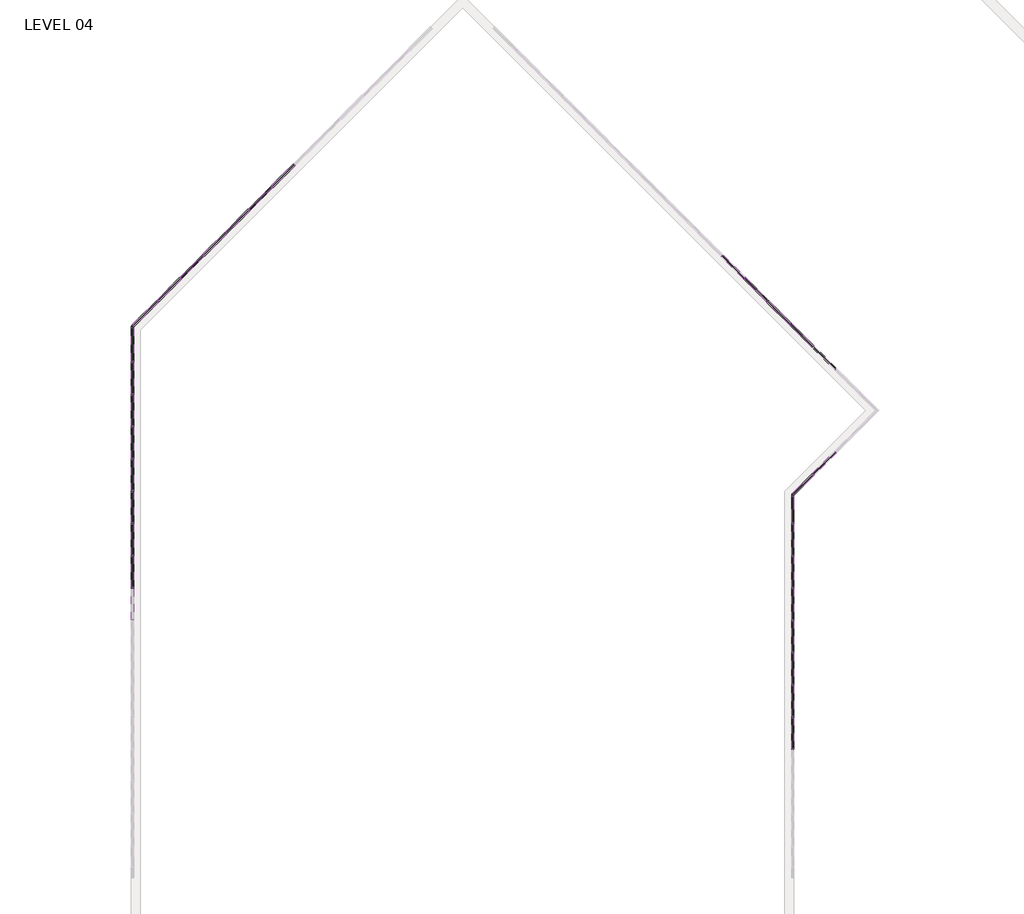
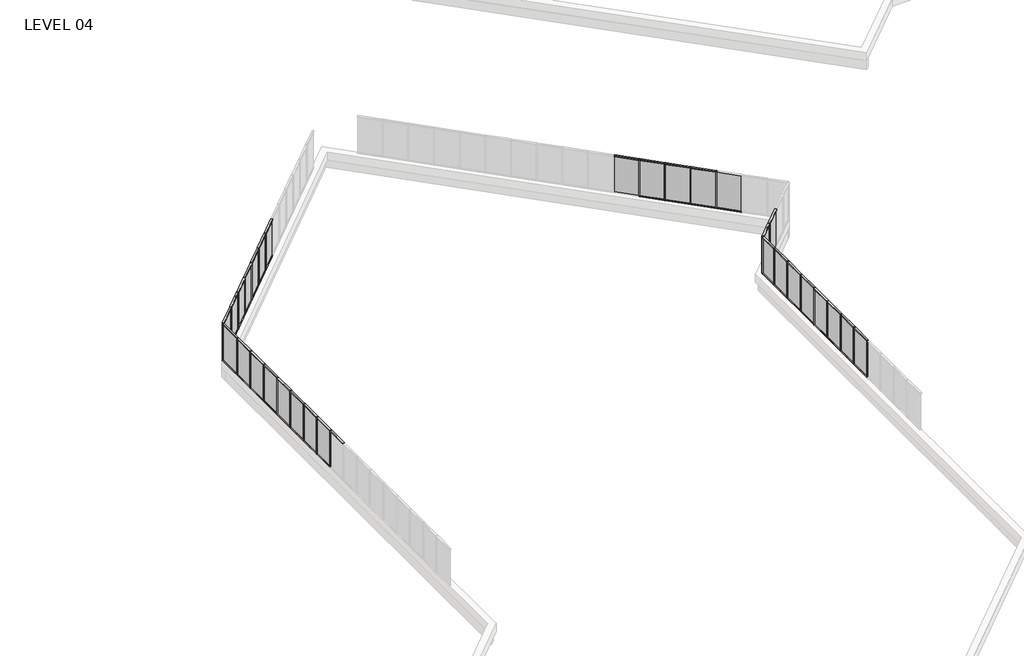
# One storey, part 5 of 17: 89 members, 30 plates.
"""IFC4 building model written with IfcOpenShell, lengths in millimetres."""

from ifc_helpers import new_model, si_unit, origin, place, context, project, spatial, transform, mapped, element, save
from components import member_5247f267, member_e44af9ab, member_800970d4, member_45eb7f2e, member_1bd862b2, member_c975838b, plate_67294edd, plate_bbcbcabf, plate_9c66726c, plate_3fb62afd, plate_129ab9d0

model = new_model("IFC4")

# Units and contexts
model_context = context("Model", 3, world=origin())
ifc_project = project(units=[si_unit("LENGTHUNIT", "METRE", prefix="MILLI")], contexts=[model_context])

# Site, building, storey
site = spatial("IfcSite", under=ifc_project)
building = spatial("IfcBuilding", under=site)
storey = spatial("IfcBuildingStorey", under=building, Name="LEVEL 04", Elevation=12052.3)

# Members
placement = place(None, origin())
member_shape = member_5247f267(model_context)
element("IfcMember", 1, ObjectType="Rectangular Mullion : 2\" x 4.5\" rectangular", at=placement, inside=storey, context=model_context, shape_type="MappedRepresentation", body=[
    mapped(member_shape, transform((-32784.0347164, 64350.5675885, 14643.1), x_axis=(0.0, 0.0, 1.0), y_axis=(1.0, 0.0, 0.0), z_axis=(0.0, 1.0, 0.0))),
])
element("IfcMember", 2, ObjectType="Rectangular Mullion : 2\" x 4.5\" rectangular", at=placement, inside=storey, context=model_context, shape_type="MappedRepresentation", body=[
    mapped(member_shape, transform((-32784.0347164, 67398.5675885, 14643.1), x_axis=(0.0, 0.0, 1.0), y_axis=(1.0, 0.0, 0.0), z_axis=(0.0, 1.0, 0.0))),
])
element("IfcMember", 3, ObjectType="Rectangular Mullion : 2\" x 4.5\" rectangular", at=placement, inside=storey, context=model_context, shape_type="MappedRepresentation", body=[
    mapped(member_shape, transform((-32784.0347164, 71970.5675885, 14643.1), x_axis=(0.0, 0.0, 1.0), y_axis=(1.0, 0.0, 0.0), z_axis=(0.0, 1.0, 0.0))),
])
element("IfcMember", 4, ObjectType="Rectangular Mullion : 2\" x 4.5\" rectangular", at=placement, inside=storey, context=model_context, shape_type="MappedRepresentation", body=[
    mapped(member_shape, transform((-32784.0347164, 73494.5675885, 14643.1), x_axis=(0.0, 0.0, 1.0), y_axis=(1.0, 0.0, 0.0), z_axis=(0.0, 1.0, 0.0))),
])
element("IfcMember", 5, ObjectType="Rectangular Mullion : 2\" x 4.5\" rectangular", at=placement, inside=storey, context=model_context, shape_type="MappedRepresentation", body=[
    mapped(member_shape, transform((-32784.0347164, 65874.5675885, 14643.1), x_axis=(0.0, 0.0, 1.0), y_axis=(1.0, 0.0, 0.0), z_axis=(0.0, 1.0, 0.0))),
])
element("IfcMember", 6, ObjectType="Rectangular Mullion : 2\" x 4.5\" rectangular", at=placement, inside=storey, context=model_context, shape_type="MappedRepresentation", body=[
    mapped(member_shape, transform((-32784.0347164, 68922.5675885, 14643.1), x_axis=(0.0, 0.0, 1.0), y_axis=(1.0, 0.0, 0.0), z_axis=(0.0, 1.0, 0.0))),
])
element("IfcMember", 7, ObjectType="Rectangular Mullion : 2\" x 4.5\" rectangular", at=placement, inside=storey, context=model_context, shape_type="MappedRepresentation", body=[
    mapped(member_shape, transform((-32784.0347164, 70446.5675885, 14643.1), x_axis=(0.0, 0.0, 1.0), y_axis=(1.0, 0.0, 0.0), z_axis=(0.0, 1.0, 0.0))),
])
element("IfcMember", 8, ObjectType="Rectangular Mullion : 2\" x 4.5\" rectangular", at=placement, inside=storey, context=model_context, shape_type="MappedRepresentation", body=[
    mapped(member_shape, transform((-32784.0347164, 75018.5675885, 14643.1), x_axis=(0.0, 0.0, 1.0), y_axis=(1.0, 0.0, 0.0), z_axis=(0.0, 1.0, 0.0))),
])
element("IfcMember", 9, ObjectType="Rectangular Mullion : 2\" x 4.5\" rectangular", at=placement, inside=storey, context=model_context, shape_type="MappedRepresentation", body=[
    mapped(member_shape, transform((-30529.7405, 78987.9679405, 14643.1), x_axis=(0.0, 0.0, 1.0), y_axis=(0.7071067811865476, -0.7071067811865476, 0.0), z_axis=(0.7071067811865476, 0.7071067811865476, 0.0))),
])
element("IfcMember", 10, ObjectType="Rectangular Mullion : 2\" x 4.5\" rectangular", at=placement, inside=storey, context=model_context, shape_type="MappedRepresentation", body=[
    mapped(member_shape, transform((-29452.1097655, 80065.598675, 14643.1), x_axis=(0.0, 0.0, 1.0), y_axis=(0.7071067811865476, -0.7071067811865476, 0.0), z_axis=(0.7071067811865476, 0.7071067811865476, 0.0))),
])
element("IfcMember", 11, ObjectType="Rectangular Mullion : 2\" x 4.5\" rectangular", at=placement, inside=storey, context=model_context, shape_type="MappedRepresentation", body=[
    mapped(member_shape, transform((-28374.479031, 81143.2294096, 14643.1), x_axis=(0.0, 0.0, 1.0), y_axis=(0.7071067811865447, -0.7071067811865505, 0.0), z_axis=(0.7071067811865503, 0.7071067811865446, 0.0))),
])
element("IfcMember", 12, ObjectType="Rectangular Mullion : 2\" x 4.5\" rectangular", at=placement, inside=storey, context=model_context, shape_type="MappedRepresentation", body=[
    mapped(member_shape, transform((-26219.2175619, 83298.4908786, 14643.1), x_axis=(0.0, 0.0, 1.0), y_axis=(0.707106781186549, -0.7071067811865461, 0.0), z_axis=(0.7071067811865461, 0.707106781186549, 0.0))),
])
element("IfcMember", 13, ObjectType="Rectangular Mullion : 2\" x 4.5\" rectangular", at=placement, inside=storey, context=model_context, shape_type="MappedRepresentation", body=[
    mapped(member_shape, transform((-25141.5868274, 84376.1216131, 14643.1), x_axis=(0.0, 0.0, 1.0), y_axis=(0.7071067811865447, -0.7071067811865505, 0.0), z_axis=(0.7071067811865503, 0.7071067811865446, 0.0))),
])
element("IfcMember", 14, ObjectType="Rectangular Mullion : 2\" x 4.5\" rectangular", at=placement, inside=storey, context=model_context, shape_type="MappedRepresentation", body=[
    mapped(member_shape, transform((-27296.8482965, 82220.8601441, 14643.1), x_axis=(0.0, 0.0, 1.0), y_axis=(0.7071067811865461, -0.707106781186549, 0.0), z_axis=(0.707106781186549, 0.7071067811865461, 0.0))),
])
element("IfcMember", 15, ObjectType="Rectangular Mullion : 2\" x 4.5\" rectangular", at=placement, inside=storey, context=model_context, shape_type="MappedRepresentation", body=[
    mapped(member_shape, transform((-3902.2786299, 79024.0676376, 14643.1), x_axis=(0.0, 0.0, 1.0), y_axis=(-0.7071067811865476, -0.7071067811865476, 0.0), z_axis=(0.7071067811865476, -0.7071067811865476, 0.0))),
])
element("IfcMember", 16, ObjectType="Rectangular Mullion : 2\" x 4.5\" rectangular", at=placement, inside=storey, context=model_context, shape_type="MappedRepresentation", body=[
    mapped(member_shape, transform((-2824.6478954, 77946.4369031, 14643.1), x_axis=(0.0, 0.0, 1.0), y_axis=(-0.7071067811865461, -0.707106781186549, 0.0), z_axis=(0.707106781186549, -0.7071067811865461, 0.0))),
])
element("IfcMember", 17, ObjectType="Rectangular Mullion : 2\" x 4.5\" rectangular", at=placement, inside=storey, context=model_context, shape_type="MappedRepresentation", body=[
    mapped(member_shape, transform((-1747.0171608, 76868.8061686, 14643.1), x_axis=(0.0, 0.0, 1.0), y_axis=(-0.7071067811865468, -0.7071067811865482, 0.0), z_axis=(0.7071067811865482, -0.7071067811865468, 0.0))),
])
element("IfcMember", 18, ObjectType="Rectangular Mullion : 2\" x 4.5\" rectangular", at=placement, inside=storey, context=model_context, shape_type="MappedRepresentation", body=[
    mapped(member_shape, transform((-669.3864263, 75791.175434, 14643.1), x_axis=(0.0, 0.0, 1.0), y_axis=(-0.7071067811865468, -0.7071067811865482, 0.0), z_axis=(0.7071067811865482, -0.7071067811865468, 0.0))),
])
element("IfcMember", 19, ObjectType="Rectangular Mullion : 2\" x 4.5\" rectangular", at=placement, inside=storey, context=model_context, shape_type="MappedRepresentation", body=[
    mapped(member_shape, transform((-633.4615109, 69760.6846584, 14643.1), x_axis=(0.0, 0.0, 1.0), y_axis=(-0.7071067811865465, 0.7071067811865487, 0.0), z_axis=(-0.7071067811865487, -0.7071067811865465, 0.0))),
])
element("IfcMember", 20, ObjectType="Rectangular Mullion : 2\" x 4.5\" rectangular", at=placement, inside=storey, context=model_context, shape_type="MappedRepresentation", body=[
    mapped(member_shape, transform((-1611.8847164, 58254.5675885, 14643.1), x_axis=(0.0, 0.0, 1.0), y_axis=(1.0, 0.0, 0.0), z_axis=(0.0, 1.0, 0.0))),
])
element("IfcMember", 21, ObjectType="Rectangular Mullion : 2\" x 4.5\" rectangular", at=placement, inside=storey, context=model_context, shape_type="MappedRepresentation", body=[
    mapped(member_shape, transform((-1611.8847164, 59778.5675885, 14643.1), x_axis=(0.0, 0.0, 1.0), y_axis=(1.0, 0.0, 0.0), z_axis=(0.0, 1.0, 0.0))),
])
element("IfcMember", 22, ObjectType="Rectangular Mullion : 2\" x 4.5\" rectangular", at=placement, inside=storey, context=model_context, shape_type="MappedRepresentation", body=[
    mapped(member_shape, transform((-1611.8847164, 62826.5675885, 14643.1), x_axis=(0.0, 0.0, 1.0), y_axis=(1.0, 0.0, 0.0), z_axis=(0.0, 1.0, 0.0))),
])
element("IfcMember", 23, ObjectType="Rectangular Mullion : 2\" x 4.5\" rectangular", at=placement, inside=storey, context=model_context, shape_type="MappedRepresentation", body=[
    mapped(member_shape, transform((-1611.8847164, 64350.5675885, 14643.1), x_axis=(0.0, 0.0, 1.0), y_axis=(1.0, 0.0, 0.0), z_axis=(0.0, 1.0, 0.0))),
])
element("IfcMember", 24, ObjectType="Rectangular Mullion : 2\" x 4.5\" rectangular", at=placement, inside=storey, context=model_context, shape_type="MappedRepresentation", body=[
    mapped(member_shape, transform((-1611.8847164, 65874.5675885, 14643.1), x_axis=(0.0, 0.0, 1.0), y_axis=(1.0, 0.0, 0.0), z_axis=(0.0, 1.0, 0.0))),
])
element("IfcMember", 25, ObjectType="Rectangular Mullion : 2\" x 4.5\" rectangular", at=placement, inside=storey, context=model_context, shape_type="MappedRepresentation", body=[
    mapped(member_shape, transform((-1611.8847164, 67398.5675885, 14643.1), x_axis=(0.0, 0.0, 1.0), y_axis=(1.0, 0.0, 0.0), z_axis=(0.0, 1.0, 0.0))),
])
element("IfcMember", 26, ObjectType="Rectangular Mullion : 2\" x 4.5\" rectangular", at=placement, inside=storey, context=model_context, shape_type="MappedRepresentation", body=[
    mapped(member_shape, transform((-1611.8847164, 61302.5675885, 14643.1), x_axis=(0.0, 0.0, 1.0), y_axis=(1.0, 0.0, 0.0), z_axis=(0.0, 1.0, 0.0))),
])
element("IfcMember", 27, ObjectType="Rectangular Mullion : 2\" x 4.5\" rectangular", at=placement, inside=storey, context=model_context, shape_type="MappedRepresentation", body=[
    mapped(member_shape, transform((-32784.0347164, 64401.3675885, 12052.3), x_axis=(0.0, 0.0, -1.0), y_axis=(1.0, 0.0, 0.0), z_axis=(0.0, -1.0, 0.0))),
])
element("IfcMember", 28, ObjectType="Rectangular Mullion : 2\" x 4.5\" rectangular", at=placement, inside=storey, context=model_context, shape_type="MappedRepresentation", body=[
    mapped(member_shape, transform((-32784.0347164, 67449.3675885, 12052.3), x_axis=(0.0, 0.0, -1.0), y_axis=(1.0, 0.0, 0.0), z_axis=(0.0, -1.0, 0.0))),
])
element("IfcMember", 29, ObjectType="Rectangular Mullion : 2\" x 4.5\" rectangular", at=placement, inside=storey, context=model_context, shape_type="MappedRepresentation", body=[
    mapped(member_shape, transform((-32784.0347164, 72021.3675885, 12052.3), x_axis=(0.0, 0.0, -1.0), y_axis=(1.0, 0.0, 0.0), z_axis=(0.0, -1.0, 0.0))),
])
element("IfcMember", 30, ObjectType="Rectangular Mullion : 2\" x 4.5\" rectangular", at=placement, inside=storey, context=model_context, shape_type="MappedRepresentation", body=[
    mapped(member_shape, transform((-32784.0347164, 73545.3675885, 12052.3), x_axis=(0.0, 0.0, -1.0), y_axis=(1.0, 0.0, 0.0), z_axis=(0.0, -1.0, 0.0))),
])
element("IfcMember", 31, ObjectType="Rectangular Mullion : 2\" x 4.5\" rectangular", at=placement, inside=storey, context=model_context, shape_type="MappedRepresentation", body=[
    mapped(member_shape, transform((-32784.0347164, 65925.3675885, 12052.3), x_axis=(0.0, 0.0, -1.0), y_axis=(1.0, 0.0, 0.0), z_axis=(0.0, -1.0, 0.0))),
])
element("IfcMember", 32, ObjectType="Rectangular Mullion : 2\" x 4.5\" rectangular", at=placement, inside=storey, context=model_context, shape_type="MappedRepresentation", body=[
    mapped(member_shape, transform((-32784.0347164, 68973.3675885, 12052.3), x_axis=(0.0, 0.0, -1.0), y_axis=(1.0, 0.0, 0.0), z_axis=(0.0, -1.0, 0.0))),
])
element("IfcMember", 33, ObjectType="Rectangular Mullion : 2\" x 4.5\" rectangular", at=placement, inside=storey, context=model_context, shape_type="MappedRepresentation", body=[
    mapped(member_shape, transform((-32784.0347164, 70497.3675885, 12052.3), x_axis=(0.0, 0.0, -1.0), y_axis=(1.0, 0.0, 0.0), z_axis=(0.0, -1.0, 0.0))),
])
element("IfcMember", 34, ObjectType="Rectangular Mullion : 2\" x 4.5\" rectangular", at=placement, inside=storey, context=model_context, shape_type="MappedRepresentation", body=[
    mapped(member_shape, transform((-31571.4502101, 77946.2582305, 12052.3), x_axis=(0.0, 0.0, -1.0), y_axis=(0.7071067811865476, -0.7071067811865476, 0.0), z_axis=(-0.7071067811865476, -0.7071067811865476, 0.0))),
])
element("IfcMember", 35, ObjectType="Rectangular Mullion : 2\" x 4.5\" rectangular", at=placement, inside=storey, context=model_context, shape_type="MappedRepresentation", body=[
    mapped(member_shape, transform((-30493.8194756, 79023.888965, 12052.3), x_axis=(0.0, 0.0, -1.0), y_axis=(0.7071067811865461, -0.707106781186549, 0.0), z_axis=(-0.707106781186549, -0.7071067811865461, 0.0))),
])
element("IfcMember", 36, ObjectType="Rectangular Mullion : 2\" x 4.5\" rectangular", at=placement, inside=storey, context=model_context, shape_type="MappedRepresentation", body=[
    mapped(member_shape, transform((-29416.188741, 80101.5196995, 12052.3), x_axis=(0.0, 0.0, -1.0), y_axis=(0.7071067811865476, -0.7071067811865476, 0.0), z_axis=(-0.7071067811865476, -0.7071067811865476, 0.0))),
])
element("IfcMember", 37, ObjectType="Rectangular Mullion : 2\" x 4.5\" rectangular", at=placement, inside=storey, context=model_context, shape_type="MappedRepresentation", body=[
    mapped(member_shape, transform((-28338.5580065, 81179.150434, 12052.3), x_axis=(0.0, 0.0, -1.0), y_axis=(0.7071067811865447, -0.7071067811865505, 0.0), z_axis=(-0.7071067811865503, -0.7071067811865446, 0.0))),
])
element("IfcMember", 38, ObjectType="Rectangular Mullion : 2\" x 4.5\" rectangular", at=placement, inside=storey, context=model_context, shape_type="MappedRepresentation", body=[
    mapped(member_shape, transform((-26183.2965374, 83334.4119031, 12052.3), x_axis=(0.0, 0.0, -1.0), y_axis=(0.7071067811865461, -0.707106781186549, 0.0), z_axis=(-0.707106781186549, -0.7071067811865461, 0.0))),
])
element("IfcMember", 39, ObjectType="Rectangular Mullion : 2\" x 4.5\" rectangular", at=placement, inside=storey, context=model_context, shape_type="MappedRepresentation", body=[
    mapped(member_shape, transform((-27260.927272, 82256.7811686, 12052.3), x_axis=(0.0, 0.0, -1.0), y_axis=(0.7071067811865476, -0.7071067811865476, 0.0), z_axis=(-0.7071067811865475, -0.7071067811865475, 0.0))),
])
element("IfcMember", 40, ObjectType="Rectangular Mullion : 2\" x 4.5\" rectangular", at=placement, inside=storey, context=model_context, shape_type="MappedRepresentation", body=[
    mapped(member_shape, transform((-3866.3576054, 78988.1466131, 12052.3), x_axis=(0.0, 0.0, -1.0), y_axis=(-0.7071067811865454, -0.7071067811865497, 0.0), z_axis=(-0.7071067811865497, 0.7071067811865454, 0.0))),
])
element("IfcMember", 41, ObjectType="Rectangular Mullion : 2\" x 4.5\" rectangular", at=placement, inside=storey, context=model_context, shape_type="MappedRepresentation", body=[
    mapped(member_shape, transform((-2788.7268709, 77910.5158786, 12052.3), x_axis=(0.0, 0.0, -1.0), y_axis=(-0.7071067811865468, -0.7071067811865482, 0.0), z_axis=(-0.7071067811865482, 0.7071067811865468, 0.0))),
])
element("IfcMember", 42, ObjectType="Rectangular Mullion : 2\" x 4.5\" rectangular", at=placement, inside=storey, context=model_context, shape_type="MappedRepresentation", body=[
    mapped(member_shape, transform((-1711.0961363, 76832.8851441, 12052.3), x_axis=(0.0, 0.0, -1.0), y_axis=(-0.7071067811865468, -0.7071067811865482, 0.0), z_axis=(-0.7071067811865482, 0.7071067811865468, 0.0))),
])
element("IfcMember", 43, ObjectType="Rectangular Mullion : 2\" x 4.5\" rectangular", at=placement, inside=storey, context=model_context, shape_type="MappedRepresentation", body=[
    mapped(member_shape, transform((-633.4654018, 75755.2544096, 12052.3), x_axis=(0.0, 0.0, -1.0), y_axis=(-0.7071067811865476, -0.7071067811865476, 0.0), z_axis=(-0.7071067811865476, 0.7071067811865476, 0.0))),
])
element("IfcMember", 44, ObjectType="Rectangular Mullion : 2\" x 4.5\" rectangular", at=placement, inside=storey, context=model_context, shape_type="MappedRepresentation", body=[
    mapped(member_shape, transform((-1611.8847164, 56781.3675885, 12052.3), x_axis=(0.0, 0.0, -1.0), y_axis=(1.0, 0.0, 0.0), z_axis=(0.0, -1.0, 0.0))),
])
element("IfcMember", 45, ObjectType="Rectangular Mullion : 2\" x 4.5\" rectangular", at=placement, inside=storey, context=model_context, shape_type="MappedRepresentation", body=[
    mapped(member_shape, transform((-1611.8847164, 58305.3675885, 12052.3), x_axis=(0.0, 0.0, -1.0), y_axis=(1.0, 0.0, 0.0), z_axis=(0.0, -1.0, 0.0))),
])
element("IfcMember", 46, ObjectType="Rectangular Mullion : 2\" x 4.5\" rectangular", at=placement, inside=storey, context=model_context, shape_type="MappedRepresentation", body=[
    mapped(member_shape, transform((-1611.8847164, 59829.3675885, 12052.3), x_axis=(0.0, 0.0, -1.0), y_axis=(1.0, 0.0, 0.0), z_axis=(0.0, -1.0, 0.0))),
])
element("IfcMember", 47, ObjectType="Rectangular Mullion : 2\" x 4.5\" rectangular", at=placement, inside=storey, context=model_context, shape_type="MappedRepresentation", body=[
    mapped(member_shape, transform((-1611.8847164, 62877.3675885, 12052.3), x_axis=(0.0, 0.0, -1.0), y_axis=(1.0, 0.0, 0.0), z_axis=(0.0, -1.0, 0.0))),
])
element("IfcMember", 48, ObjectType="Rectangular Mullion : 2\" x 4.5\" rectangular", at=placement, inside=storey, context=model_context, shape_type="MappedRepresentation", body=[
    mapped(member_shape, transform((-1611.8847164, 64401.3675885, 12052.3), x_axis=(0.0, 0.0, -1.0), y_axis=(1.0, 0.0, 0.0), z_axis=(0.0, -1.0, 0.0))),
])
element("IfcMember", 49, ObjectType="Rectangular Mullion : 2\" x 4.5\" rectangular", at=placement, inside=storey, context=model_context, shape_type="MappedRepresentation", body=[
    mapped(member_shape, transform((-1611.8847164, 65925.3675885, 12052.3), x_axis=(0.0, 0.0, -1.0), y_axis=(1.0, 0.0, 0.0), z_axis=(0.0, -1.0, 0.0))),
])
element("IfcMember", 50, ObjectType="Rectangular Mullion : 2\" x 4.5\" rectangular", at=placement, inside=storey, context=model_context, shape_type="MappedRepresentation", body=[
    mapped(member_shape, transform((-1611.8847164, 61353.3675885, 12052.3), x_axis=(0.0, 0.0, -1.0), y_axis=(1.0, 0.0, 0.0), z_axis=(0.0, -1.0, 0.0))),
])
member_2_shape = member_e44af9ab(model_context)
element("IfcMember", 51, ObjectType="Rectangular Mullion : 2\" x 4.5\" rectangular", at=placement, inside=storey, context=model_context, shape_type="MappedRepresentation", body=[
    mapped(member_2_shape, transform((-32784.0347164, 64375.9675885, 12052.3), x_axis=(0.0, 1.0, 0.0), y_axis=(1.0, 0.0, 0.0), z_axis=(0.0, 0.0, -1.0))),
])
element("IfcMember", 52, ObjectType="Rectangular Mullion : 2\" x 4.5\" rectangular", at=placement, inside=storey, context=model_context, shape_type="MappedRepresentation", body=[
    mapped(member_2_shape, transform((-32784.0347164, 67423.9675885, 12052.3), x_axis=(0.0, 1.0, 0.0), y_axis=(1.0, 0.0, 0.0), z_axis=(0.0, 0.0, -1.0))),
])
element("IfcMember", 53, ObjectType="Rectangular Mullion : 2\" x 4.5\" rectangular", at=placement, inside=storey, context=model_context, shape_type="MappedRepresentation", body=[
    mapped(member_2_shape, transform((-32784.0347164, 71995.9675885, 12052.3), x_axis=(0.0, 1.0, 0.0), y_axis=(1.0, 0.0, 0.0), z_axis=(0.0, 0.0, -1.0))),
])
element("IfcMember", 54, ObjectType="Rectangular Mullion : 2\" x 4.5\" rectangular", at=placement, inside=storey, context=model_context, shape_type="MappedRepresentation", body=[
    mapped(member_2_shape, transform((-32784.0347164, 73519.9675885, 12052.3), x_axis=(0.0, 1.0, 0.0), y_axis=(1.0, 0.0, 0.0), z_axis=(0.0, 0.0, -1.0))),
])
element("IfcMember", 55, ObjectType="Rectangular Mullion : 2\" x 4.5\" rectangular", at=placement, inside=storey, context=model_context, shape_type="MappedRepresentation", body=[
    mapped(member_2_shape, transform((-32784.0347164, 65899.9675885, 12052.3), x_axis=(0.0, 1.0, 0.0), y_axis=(1.0, 0.0, 0.0), z_axis=(0.0, 0.0, -1.0))),
])
element("IfcMember", 56, ObjectType="Rectangular Mullion : 2\" x 4.5\" rectangular", at=placement, inside=storey, context=model_context, shape_type="MappedRepresentation", body=[
    mapped(member_2_shape, transform((-32784.0347164, 68947.9675885, 12052.3), x_axis=(0.0, 1.0, 0.0), y_axis=(1.0, 0.0, 0.0), z_axis=(0.0, 0.0, -1.0))),
])
element("IfcMember", 57, ObjectType="Rectangular Mullion : 2\" x 4.5\" rectangular", at=placement, inside=storey, context=model_context, shape_type="MappedRepresentation", body=[
    mapped(member_2_shape, transform((-32784.0347164, 70471.9675885, 12052.3), x_axis=(0.0, 1.0, 0.0), y_axis=(1.0, 0.0, 0.0), z_axis=(0.0, 0.0, -1.0))),
])
element("IfcMember", 58, ObjectType="Rectangular Mullion : 2\" x 4.5\" rectangular", at=placement, inside=storey, context=model_context, shape_type="MappedRepresentation", body=[
    mapped(member_2_shape, transform((-32784.0347164, 75043.9675885, 12052.3), x_axis=(0.0, 1.0, 0.0), y_axis=(1.0, 0.0, 0.0), z_axis=(0.0, 0.0, -1.0))),
])
element("IfcMember", 59, ObjectType="Rectangular Mullion : 2\" x 4.5\" rectangular", at=placement, inside=storey, context=model_context, shape_type="MappedRepresentation", body=[
    mapped(member_2_shape, transform((-31589.4107223, 77928.2977182, 12052.3), x_axis=(0.7071067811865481, 0.7071067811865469, 0.0), y_axis=(0.7071067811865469, -0.7071067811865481, 0.0), z_axis=(0.0, 0.0, -1.0))),
])
element("IfcMember", 60, ObjectType="Rectangular Mullion : 2\" x 4.5\" rectangular", at=placement, inside=storey, context=model_context, shape_type="MappedRepresentation", body=[
    mapped(member_2_shape, transform((-30511.7799878, 79005.9284527, 12052.3), x_axis=(0.7071067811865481, 0.7071067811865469, 0.0), y_axis=(0.7071067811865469, -0.7071067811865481, 0.0), z_axis=(0.0, 0.0, -1.0))),
])
element("IfcMember", 61, ObjectType="Rectangular Mullion : 2\" x 4.5\" rectangular", at=placement, inside=storey, context=model_context, shape_type="MappedRepresentation", body=[
    mapped(member_2_shape, transform((-29434.1492533, 80083.5591873, 12052.3), x_axis=(0.7071067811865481, 0.7071067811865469, 0.0), y_axis=(0.7071067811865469, -0.7071067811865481, 0.0), z_axis=(0.0, 0.0, -1.0))),
])
element("IfcMember", 62, ObjectType="Rectangular Mullion : 2\" x 4.5\" rectangular", at=placement, inside=storey, context=model_context, shape_type="MappedRepresentation", body=[
    mapped(member_2_shape, transform((-28356.5185187, 81161.1899218, 12052.3), x_axis=(0.7071067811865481, 0.7071067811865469, 0.0), y_axis=(0.7071067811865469, -0.7071067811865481, 0.0), z_axis=(0.0, 0.0, -1.0))),
])
element("IfcMember", 63, ObjectType="Rectangular Mullion : 2\" x 4.5\" rectangular", at=placement, inside=storey, context=model_context, shape_type="MappedRepresentation", body=[
    mapped(member_2_shape, transform((-26201.2570497, 83316.4513909, 12052.3), x_axis=(0.7071067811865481, 0.7071067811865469, 0.0), y_axis=(0.7071067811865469, -0.7071067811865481, 0.0), z_axis=(0.0, 0.0, -1.0))),
])
element("IfcMember", 64, ObjectType="Rectangular Mullion : 2\" x 4.5\" rectangular", at=placement, inside=storey, context=model_context, shape_type="MappedRepresentation", body=[
    mapped(member_2_shape, transform((-27278.8877842, 82238.8206563, 12052.3), x_axis=(0.7071067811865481, 0.7071067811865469, 0.0), y_axis=(0.7071067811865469, -0.7071067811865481, 0.0), z_axis=(0.0, 0.0, -1.0))),
])
element("IfcMember", 65, ObjectType="Rectangular Mullion : 2\" x 4.5\" rectangular", at=placement, inside=storey, context=model_context, shape_type="MappedRepresentation", body=[
    mapped(member_2_shape, transform((-3884.3181176, 79006.1071254, 12052.3), x_axis=(0.707106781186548, -0.7071067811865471, 0.0), y_axis=(-0.7071067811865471, -0.707106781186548, 0.0), z_axis=(0.0, 0.0, -1.0))),
])
element("IfcMember", 66, ObjectType="Rectangular Mullion : 2\" x 4.5\" rectangular", at=placement, inside=storey, context=model_context, shape_type="MappedRepresentation", body=[
    mapped(member_2_shape, transform((-2806.6873831, 77928.4763909, 12052.3), x_axis=(0.707106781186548, -0.7071067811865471, 0.0), y_axis=(-0.7071067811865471, -0.707106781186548, 0.0), z_axis=(0.0, 0.0, -1.0))),
])
element("IfcMember", 67, ObjectType="Rectangular Mullion : 2\" x 4.5\" rectangular", at=placement, inside=storey, context=model_context, shape_type="MappedRepresentation", body=[
    mapped(member_2_shape, transform((-1729.0566486, 76850.8456563, 12052.3), x_axis=(0.707106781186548, -0.7071067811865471, 0.0), y_axis=(-0.7071067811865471, -0.707106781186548, 0.0), z_axis=(0.0, 0.0, -1.0))),
])
element("IfcMember", 68, ObjectType="Rectangular Mullion : 2\" x 4.5\" rectangular", at=placement, inside=storey, context=model_context, shape_type="MappedRepresentation", body=[
    mapped(member_2_shape, transform((-651.4259141, 75773.2149218, 12052.3), x_axis=(0.707106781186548, -0.7071067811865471, 0.0), y_axis=(-0.7071067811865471, -0.707106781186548, 0.0), z_axis=(0.0, 0.0, -1.0))),
])
element("IfcMember", 69, ObjectType="Rectangular Mullion : 2\" x 4.5\" rectangular", at=placement, inside=storey, context=model_context, shape_type="MappedRepresentation", body=[
    mapped(member_2_shape, transform((-651.4220231, 69742.7241462, 12052.3), x_axis=(-0.707106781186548, -0.7071067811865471, 0.0), y_axis=(-0.7071067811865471, 0.707106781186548, 0.0), z_axis=(0.0, 0.0, -1.0))),
])
element("IfcMember", 70, ObjectType="Rectangular Mullion : 2\" x 4.5\" rectangular", at=placement, inside=storey, context=model_context, shape_type="MappedRepresentation", body=[
    mapped(member_2_shape, transform((-1611.8847164, 56755.9675885, 12052.3), x_axis=(0.0, 1.0, 0.0), y_axis=(1.0, 0.0, 0.0), z_axis=(0.0, 0.0, -1.0))),
])
element("IfcMember", 71, ObjectType="Rectangular Mullion : 2\" x 4.5\" rectangular", at=placement, inside=storey, context=model_context, shape_type="MappedRepresentation", body=[
    mapped(member_2_shape, transform((-1611.8847164, 58279.9675885, 12052.3), x_axis=(0.0, 1.0, 0.0), y_axis=(1.0, 0.0, 0.0), z_axis=(0.0, 0.0, -1.0))),
])
element("IfcMember", 72, ObjectType="Rectangular Mullion : 2\" x 4.5\" rectangular", at=placement, inside=storey, context=model_context, shape_type="MappedRepresentation", body=[
    mapped(member_2_shape, transform((-1611.8847164, 59803.9675885, 12052.3), x_axis=(0.0, 1.0, 0.0), y_axis=(1.0, 0.0, 0.0), z_axis=(0.0, 0.0, -1.0))),
])
element("IfcMember", 73, ObjectType="Rectangular Mullion : 2\" x 4.5\" rectangular", at=placement, inside=storey, context=model_context, shape_type="MappedRepresentation", body=[
    mapped(member_2_shape, transform((-1611.8847164, 62851.9675885, 12052.3), x_axis=(0.0, 1.0, 0.0), y_axis=(1.0, 0.0, 0.0), z_axis=(0.0, 0.0, -1.0))),
])
element("IfcMember", 74, ObjectType="Rectangular Mullion : 2\" x 4.5\" rectangular", at=placement, inside=storey, context=model_context, shape_type="MappedRepresentation", body=[
    mapped(member_2_shape, transform((-1611.8847164, 64375.9675885, 12052.3), x_axis=(0.0, 1.0, 0.0), y_axis=(1.0, 0.0, 0.0), z_axis=(0.0, 0.0, -1.0))),
])
element("IfcMember", 75, ObjectType="Rectangular Mullion : 2\" x 4.5\" rectangular", at=placement, inside=storey, context=model_context, shape_type="MappedRepresentation", body=[
    mapped(member_2_shape, transform((-1611.8847164, 65899.9675885, 12052.3), x_axis=(0.0, 1.0, 0.0), y_axis=(1.0, 0.0, 0.0), z_axis=(0.0, 0.0, -1.0))),
])
element("IfcMember", 76, ObjectType="Rectangular Mullion : 2\" x 4.5\" rectangular", at=placement, inside=storey, context=model_context, shape_type="MappedRepresentation", body=[
    mapped(member_2_shape, transform((-1611.8847164, 67423.9675885, 12052.3), x_axis=(0.0, 1.0, 0.0), y_axis=(1.0, 0.0, 0.0), z_axis=(0.0, 0.0, -1.0))),
])
element("IfcMember", 77, ObjectType="Rectangular Mullion : 2\" x 4.5\" rectangular", at=placement, inside=storey, context=model_context, shape_type="MappedRepresentation", body=[
    mapped(member_2_shape, transform((-1611.8847164, 61327.9675885, 12052.3), x_axis=(0.0, 1.0, 0.0), y_axis=(1.0, 0.0, 0.0), z_axis=(0.0, 0.0, -1.0))),
])
member_3_shape = member_800970d4(model_context)
element("IfcMember", 78, ObjectType="Rectangular Mullion : 2\" x 4.5\" rectangular", at=placement, inside=storey, context=model_context, shape_type="MappedRepresentation", body=[
    mapped(member_3_shape, transform((-32784.0347164, 76733.6737241, 12052.3), x_axis=(0.0, 1.0, 0.0), y_axis=(1.0, 0.0, 0.0), z_axis=(0.0, 0.0, -1.0))),
])
element("IfcMember", 79, ObjectType="Rectangular Mullion : 2\" x 4.5\" rectangular", at=placement, inside=storey, context=model_context, shape_type="MappedRepresentation", body=[
    mapped(member_3_shape, transform((-1611.8847164, 68782.2614529, 12052.3), x_axis=(-0.707106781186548, -0.7071067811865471, 0.0), y_axis=(-0.7071067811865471, 0.707106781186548, 0.0), z_axis=(0.0, 0.0, -1.0))),
])
element("IfcMember", 80, ObjectType="Rectangular Mullion : 2\" x 4.5\" rectangular", at=placement, inside=storey, context=model_context, shape_type="MappedRepresentation", body=[
    mapped(member_3_shape, transform((-1611.8847164, 68782.2614529, 12052.3), x_axis=(0.0, 1.0, 0.0), y_axis=(1.0, 0.0, 0.0), z_axis=(0.0, 0.0, -1.0))),
])
element("IfcMember", 81, ObjectType="Rectangular Mullion : 2\" x 4.5\" rectangular", at=placement, inside=storey, context=model_context, shape_type="MappedRepresentation", body=[
    mapped(member_3_shape, transform((-32784.0347164, 76733.6737241, 14643.1), x_axis=(-0.7071067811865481, -0.7071067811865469, 0.0), y_axis=(0.7071067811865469, -0.7071067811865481, 0.0), z_axis=(0.0, 0.0, 1.0))),
])
member_4_shape = member_45eb7f2e(model_context)
element("IfcMember", 82, ObjectType="Rectangular Mullion : 2\" x 4.5\" rectangular", at=placement, inside=storey, context=model_context, shape_type="MappedRepresentation", body=[
    mapped(member_4_shape, transform((-1575.9636919, 68818.1824774, 14643.1), x_axis=(0.0, 0.0, 1.0), y_axis=(-0.7071067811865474, 0.7071067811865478, 0.0), z_axis=(-0.7071067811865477, -0.7071067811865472, 0.0))),
])
element("IfcMember", 83, ObjectType="Rectangular Mullion : 2\" x 4.5\" rectangular", at=placement, inside=storey, context=model_context, shape_type="MappedRepresentation", body=[
    mapped(member_4_shape, transform((-1611.8847164, 68731.4614529, 14643.1), x_axis=(0.0, 0.0, 1.0), y_axis=(1.0, 0.0, 0.0), z_axis=(0.0, 1.0, 0.0))),
])
member_5_shape = member_1bd862b2(model_context)
element("IfcMember", 84, ObjectType="Rectangular Mullion : 2\" x 4.5\" rectangular", at=placement, inside=storey, context=model_context, shape_type="MappedRepresentation", body=[
    mapped(member_5_shape, transform((-32784.0347164, 75069.3675885, 12052.3), x_axis=(0.0, 0.0, -1.0), y_axis=(1.0, 0.0, 0.0), z_axis=(0.0, -1.0, 0.0))),
])
element("IfcMember", 85, ObjectType="Rectangular Mullion : 2\" x 4.5\" rectangular", at=placement, inside=storey, context=model_context, shape_type="MappedRepresentation", body=[
    mapped(member_4_shape, transform((-669.3825354, 69724.7636339, 12052.3), x_axis=(0.0, 0.0, -1.0), y_axis=(-0.7071067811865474, 0.7071067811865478, 0.0), z_axis=(0.7071067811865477, 0.7071067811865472, 0.0))),
])
element("IfcMember", 86, ObjectType="Rectangular Mullion : 2\" x 4.5\" rectangular", at=placement, inside=storey, context=model_context, shape_type="MappedRepresentation", body=[
    mapped(member_4_shape, transform((-1611.8847164, 67449.3675885, 12052.3), x_axis=(0.0, 0.0, -1.0), y_axis=(1.0, 0.0, 0.0), z_axis=(0.0, -1.0, 0.0))),
])
element("IfcMember", 87, ObjectType="Rectangular Mullion : 2\" x 4.5\" rectangular", at=placement, inside=storey, context=model_context, shape_type="MappedRepresentation", body=[
    mapped(member_5_shape, transform((-32784.0347164, 76682.8737241, 14643.1), x_axis=(0.0, 0.0, 1.0), y_axis=(1.0, 0.0, 0.0), z_axis=(0.0, 1.0, 0.0))),
])
member_6_shape = member_c975838b(model_context)
element("IfcMember", 88, ObjectType="Rectangular Mullion : 2\" x 4.5\" rectangular", at=placement, inside=storey, context=model_context, shape_type="MappedRepresentation", body=[
    mapped(member_6_shape, transform((-32748.1136919, 76769.5947486, 12052.3), x_axis=(0.0, 0.0, -1.0), y_axis=(0.7071067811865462, -0.7071067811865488, 0.0), z_axis=(-0.7071067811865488, -0.7071067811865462, 0.0))),
])
element("IfcMember", 89, ObjectType="Rectangular Mullion : 2\" x 4.5\" rectangular", at=placement, inside=storey, context=model_context, shape_type="MappedRepresentation", body=[
    mapped(member_6_shape, transform((-31607.3712346, 77910.337206, 14643.1), x_axis=(0.0, 0.0, 1.0), y_axis=(0.7071067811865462, -0.7071067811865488, 0.0), z_axis=(0.7071067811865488, 0.7071067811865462, 0.0))),
])

# Plates
plate_shape = plate_67294edd(model_context)
element("IfcPlate", 90, ObjectType="System Panel : 1/4\" Glass", at=placement, inside=storey, context=model_context, shape_type="MappedRepresentation", body=[
    mapped(plate_shape, transform((-32784.0347164, 65137.9675885, 12103.1), x_axis=(0.0, 1.0, 0.0), y_axis=(-1.0, 0.0, 0.0), z_axis=(0.0, 0.0, 1.0))),
])
element("IfcPlate", 91, ObjectType="System Panel : 1/4\" Glass", at=placement, inside=storey, context=model_context, shape_type="MappedRepresentation", body=[
    mapped(plate_shape, transform((-32784.0347164, 68185.9675885, 12103.1), x_axis=(0.0, 1.0, 0.0), y_axis=(-1.0, 0.0, 0.0), z_axis=(0.0, 0.0, 1.0))),
])
element("IfcPlate", 92, ObjectType="System Panel : 1/4\" Glass", at=placement, inside=storey, context=model_context, shape_type="MappedRepresentation", body=[
    mapped(plate_shape, transform((-32784.0347164, 72757.9675885, 12103.1), x_axis=(0.0, 1.0, 0.0), y_axis=(-1.0, 0.0, 0.0), z_axis=(0.0, 0.0, 1.0))),
])
element("IfcPlate", 93, ObjectType="System Panel : 1/4\" Glass", at=placement, inside=storey, context=model_context, shape_type="MappedRepresentation", body=[
    mapped(plate_shape, transform((-32784.0347164, 74281.9675885, 12103.1), x_axis=(0.0, 1.0, 0.0), y_axis=(-1.0, 0.0, 0.0), z_axis=(0.0, 0.0, 1.0))),
])
element("IfcPlate", 94, ObjectType="System Panel : 1/4\" Glass", at=placement, inside=storey, context=model_context, shape_type="MappedRepresentation", body=[
    mapped(plate_shape, transform((-32784.0347164, 66661.9675885, 12103.1), x_axis=(0.0, 1.0, 0.0), y_axis=(-1.0, 0.0, 0.0), z_axis=(0.0, 0.0, 1.0))),
])
element("IfcPlate", 95, ObjectType="System Panel : 1/4\" Glass", at=placement, inside=storey, context=model_context, shape_type="MappedRepresentation", body=[
    mapped(plate_shape, transform((-32784.0347164, 69709.9675885, 12103.1), x_axis=(0.0, 1.0, 0.0), y_axis=(-1.0, 0.0, 0.0), z_axis=(0.0, 0.0, 1.0))),
])
element("IfcPlate", 96, ObjectType="System Panel : 1/4\" Glass", at=placement, inside=storey, context=model_context, shape_type="MappedRepresentation", body=[
    mapped(plate_shape, transform((-32784.0347164, 71233.9675885, 12103.1), x_axis=(0.0, 1.0, 0.0), y_axis=(-1.0, 0.0, 0.0), z_axis=(0.0, 0.0, 1.0))),
])
element("IfcPlate", 97, ObjectType="System Panel : 1/4\" Glass", at=placement, inside=storey, context=model_context, shape_type="MappedRepresentation", body=[
    mapped(plate_shape, transform((-31050.5953551, 78467.1130855, 12103.1), x_axis=(0.7071067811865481, 0.7071067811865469, 0.0), y_axis=(-0.7071067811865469, 0.7071067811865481, 0.0), z_axis=(0.0, 0.0, 1.0))),
])
element("IfcPlate", 98, ObjectType="System Panel : 1/4\" Glass", at=placement, inside=storey, context=model_context, shape_type="MappedRepresentation", body=[
    mapped(plate_shape, transform((-29972.9646205, 79544.74382, 12103.1), x_axis=(0.7071067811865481, 0.7071067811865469, 0.0), y_axis=(-0.7071067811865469, 0.7071067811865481, 0.0), z_axis=(0.0, 0.0, 1.0))),
])
element("IfcPlate", 99, ObjectType="System Panel : 1/4\" Glass", at=placement, inside=storey, context=model_context, shape_type="MappedRepresentation", body=[
    mapped(plate_shape, transform((-28895.333886, 80622.3745545, 12103.1), x_axis=(0.7071067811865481, 0.7071067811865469, 0.0), y_axis=(-0.7071067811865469, 0.7071067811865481, 0.0), z_axis=(0.0, 0.0, 1.0))),
])
element("IfcPlate", 100, ObjectType="System Panel : 1/4\" Glass", at=placement, inside=storey, context=model_context, shape_type="MappedRepresentation", body=[
    mapped(plate_shape, transform((-27817.7031515, 81700.0052891, 12103.1), x_axis=(0.7071067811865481, 0.7071067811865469, 0.0), y_axis=(-0.7071067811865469, 0.7071067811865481, 0.0), z_axis=(0.0, 0.0, 1.0))),
])
element("IfcPlate", 101, ObjectType="System Panel : 1/4\" Glass", at=placement, inside=storey, context=model_context, shape_type="MappedRepresentation", body=[
    mapped(plate_shape, transform((-25662.4416824, 83855.2667581, 12103.1), x_axis=(0.7071067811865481, 0.7071067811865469, 0.0), y_axis=(-0.7071067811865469, 0.7071067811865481, 0.0), z_axis=(0.0, 0.0, 1.0))),
])
element("IfcPlate", 102, ObjectType="System Panel : 1/4\" Glass", at=placement, inside=storey, context=model_context, shape_type="MappedRepresentation", body=[
    mapped(plate_shape, transform((-26740.072417, 82777.6360236, 12103.1), x_axis=(0.7071067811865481, 0.7071067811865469, 0.0), y_axis=(-0.7071067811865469, 0.7071067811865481, 0.0), z_axis=(0.0, 0.0, 1.0))),
])
element("IfcPlate", 103, ObjectType="System Panel : 1/4\" Glass", at=placement, inside=storey, context=model_context, shape_type="MappedRepresentation", body=[
    mapped(plate_shape, transform((-4423.1334849, 79544.9224927, 12103.1), x_axis=(0.707106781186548, -0.7071067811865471, 0.0), y_axis=(0.7071067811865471, 0.707106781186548, 0.0), z_axis=(0.0, 0.0, 1.0))),
])
element("IfcPlate", 104, ObjectType="System Panel : 1/4\" Glass", at=placement, inside=storey, context=model_context, shape_type="MappedRepresentation", body=[
    mapped(plate_shape, transform((-3345.5027504, 78467.2917581, 12103.1), x_axis=(0.707106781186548, -0.7071067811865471, 0.0), y_axis=(0.7071067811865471, 0.707106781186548, 0.0), z_axis=(0.0, 0.0, 1.0))),
])
element("IfcPlate", 105, ObjectType="System Panel : 1/4\" Glass", at=placement, inside=storey, context=model_context, shape_type="MappedRepresentation", body=[
    mapped(plate_shape, transform((-2267.8720159, 77389.6610236, 12103.1), x_axis=(0.707106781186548, -0.7071067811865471, 0.0), y_axis=(0.7071067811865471, 0.707106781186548, 0.0), z_axis=(0.0, 0.0, 1.0))),
])
element("IfcPlate", 106, ObjectType="System Panel : 1/4\" Glass", at=placement, inside=storey, context=model_context, shape_type="MappedRepresentation", body=[
    mapped(plate_shape, transform((-1190.2412813, 76312.0302891, 12103.1), x_axis=(0.707106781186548, -0.7071067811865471, 0.0), y_axis=(0.7071067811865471, 0.707106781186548, 0.0), z_axis=(0.0, 0.0, 1.0))),
])
element("IfcPlate", 107, ObjectType="System Panel : 1/4\" Glass", at=placement, inside=storey, context=model_context, shape_type="MappedRepresentation", body=[
    mapped(plate_shape, transform((-112.6105468, 75234.3995545, 12103.1), x_axis=(0.707106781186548, -0.7071067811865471, 0.0), y_axis=(0.7071067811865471, 0.707106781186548, 0.0), z_axis=(0.0, 0.0, 1.0))),
])
element("IfcPlate", 108, ObjectType="System Panel : 1/4\" Glass", at=placement, inside=storey, context=model_context, shape_type="MappedRepresentation", body=[
    mapped(plate_shape, transform((-112.6066559, 70281.5395134, 12103.1), x_axis=(-0.707106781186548, -0.7071067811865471, 0.0), y_axis=(0.7071067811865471, -0.707106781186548, 0.0), z_axis=(0.0, 0.0, 1.0))),
])
element("IfcPlate", 109, ObjectType="System Panel : 1/4\" Glass", at=placement, inside=storey, context=model_context, shape_type="MappedRepresentation", body=[
    mapped(plate_shape, transform((-1611.8847164, 57517.9675885, 12103.1), x_axis=(0.0, 1.0, 0.0), y_axis=(-1.0, 0.0, 0.0), z_axis=(0.0, 0.0, 1.0))),
])
element("IfcPlate", 110, ObjectType="System Panel : 1/4\" Glass", at=placement, inside=storey, context=model_context, shape_type="MappedRepresentation", body=[
    mapped(plate_shape, transform((-1611.8847164, 59041.9675885, 12103.1), x_axis=(0.0, 1.0, 0.0), y_axis=(-1.0, 0.0, 0.0), z_axis=(0.0, 0.0, 1.0))),
])
element("IfcPlate", 111, ObjectType="System Panel : 1/4\" Glass", at=placement, inside=storey, context=model_context, shape_type="MappedRepresentation", body=[
    mapped(plate_shape, transform((-1611.8847164, 60565.9675885, 12103.1), x_axis=(0.0, 1.0, 0.0), y_axis=(-1.0, 0.0, 0.0), z_axis=(0.0, 0.0, 1.0))),
])
element("IfcPlate", 112, ObjectType="System Panel : 1/4\" Glass", at=placement, inside=storey, context=model_context, shape_type="MappedRepresentation", body=[
    mapped(plate_shape, transform((-1611.8847164, 63613.9675885, 12103.1), x_axis=(0.0, 1.0, 0.0), y_axis=(-1.0, 0.0, 0.0), z_axis=(0.0, 0.0, 1.0))),
])
element("IfcPlate", 113, ObjectType="System Panel : 1/4\" Glass", at=placement, inside=storey, context=model_context, shape_type="MappedRepresentation", body=[
    mapped(plate_shape, transform((-1611.8847164, 65137.9675885, 12103.1), x_axis=(0.0, 1.0, 0.0), y_axis=(-1.0, 0.0, 0.0), z_axis=(0.0, 0.0, 1.0))),
])
element("IfcPlate", 114, ObjectType="System Panel : 1/4\" Glass", at=placement, inside=storey, context=model_context, shape_type="MappedRepresentation", body=[
    mapped(plate_shape, transform((-1611.8847164, 66661.9675885, 12103.1), x_axis=(0.0, 1.0, 0.0), y_axis=(-1.0, 0.0, 0.0), z_axis=(0.0, 0.0, 1.0))),
])
element("IfcPlate", 115, ObjectType="System Panel : 1/4\" Glass", at=placement, inside=storey, context=model_context, shape_type="MappedRepresentation", body=[
    mapped(plate_shape, transform((-1611.8847164, 62089.9675885, 12103.1), x_axis=(0.0, 1.0, 0.0), y_axis=(-1.0, 0.0, 0.0), z_axis=(0.0, 0.0, 1.0))),
])
plate_2_shape = plate_bbcbcabf(model_context)
element("IfcPlate", 116, ObjectType="System Panel : 1/4\" Glass", at=placement, inside=storey, context=model_context, shape_type="MappedRepresentation", body=[
    mapped(plate_2_shape, transform((-32784.0347164, 75876.1206563, 12103.1), x_axis=(0.0, 1.0, 0.0), y_axis=(-1.0, 0.0, 0.0), z_axis=(0.0, 0.0, 1.0))),
])
plate_3_shape = plate_9c66726c(model_context)
element("IfcPlate", 117, ObjectType="System Panel : 1/4\" Glass", at=placement, inside=storey, context=model_context, shape_type="MappedRepresentation", body=[
    mapped(plate_3_shape, transform((-1611.8847164, 68090.4145207, 12103.1), x_axis=(0.0, 1.0, 0.0), y_axis=(-1.0, 0.0, 0.0), z_axis=(0.0, 0.0, 1.0))),
])
plate_4_shape = plate_3fb62afd(model_context)
element("IfcPlate", 118, ObjectType="System Panel : 1/4\" Glass", at=placement, inside=storey, context=model_context, shape_type="MappedRepresentation", body=[
    mapped(plate_4_shape, transform((-32177.7424632, 77339.9659773, 12103.1), x_axis=(0.7071067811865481, 0.7071067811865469, 0.0), y_axis=(-0.7071067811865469, 0.7071067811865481, 0.0), z_axis=(0.0, 0.0, 1.0))),
])
plate_5_shape = plate_129ab9d0(model_context)
element("IfcPlate", 119, ObjectType="System Panel : 1/4\" Glass", at=placement, inside=storey, context=model_context, shape_type="MappedRepresentation", body=[
    mapped(plate_5_shape, transform((-1122.6731136, 69271.4730556, 12103.1), x_axis=(-0.707106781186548, -0.7071067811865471, 0.0), y_axis=(0.7071067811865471, -0.707106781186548, 0.0), z_axis=(0.0, 0.0, 1.0))),
])

save(model, "model.ifc")
